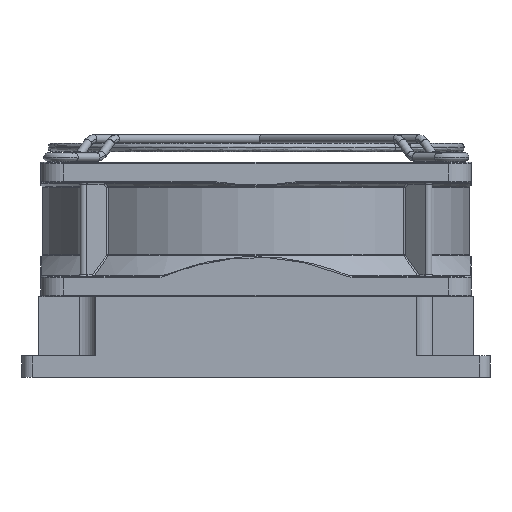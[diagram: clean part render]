
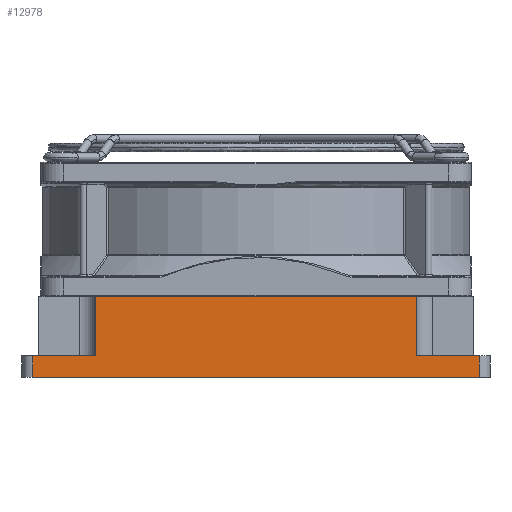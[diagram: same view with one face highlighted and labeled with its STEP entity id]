
A CAD part, front view. The second image highlights one B-rep face of the part: STEP entity #12978.
In plain terms, the highlighted planar face has unit normal (0, -1, 0).
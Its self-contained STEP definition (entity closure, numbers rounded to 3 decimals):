
#1658=FACE_OUTER_BOUND('',#2602,.T.);
#2602=EDGE_LOOP('',(#8775,#8776,#8777,#8778,#8779,#8780,#8781,#8782));
#3541=LINE('',#19007,#3938);
#3558=LINE('',#19056,#3955);
#3566=LINE('',#19084,#3963);
#3584=LINE('',#19154,#3981);
#3588=LINE('',#19162,#3985);
#3589=LINE('',#19164,#3986);
#3590=LINE('',#19166,#3987);
#3591=LINE('',#19167,#3988);
#3938=VECTOR('',#15506,10.);
#3955=VECTOR('',#15539,10.);
#3963=VECTOR('',#15563,10.);
#3981=VECTOR('',#15637,10.);
#3985=VECTOR('',#15649,10.);
#3986=VECTOR('',#15652,10.);
#3987=VECTOR('',#15655,10.);
#3988=VECTOR('',#15656,10.);
#5342=VERTEX_POINT('',#19004);
#5343=VERTEX_POINT('',#19006);
#5366=VERTEX_POINT('',#19053);
#5367=VERTEX_POINT('',#19055);
#5378=VERTEX_POINT('',#19081);
#5379=VERTEX_POINT('',#19083);
#5402=VERTEX_POINT('',#19151);
#5403=VERTEX_POINT('',#19153);
#6549=EDGE_CURVE('',#5343,#5342,#3541,.T.);
#6573=EDGE_CURVE('',#5367,#5366,#3558,.T.);
#6587=EDGE_CURVE('',#5379,#5378,#3566,.T.);
#6622=EDGE_CURVE('',#5403,#5402,#3584,.T.);
#6627=EDGE_CURVE('',#5379,#5402,#3588,.T.);
#6628=EDGE_CURVE('',#5403,#5366,#3589,.T.);
#6629=EDGE_CURVE('',#5342,#5367,#3590,.T.);
#6630=EDGE_CURVE('',#5378,#5343,#3591,.T.);
#8775=ORIENTED_EDGE('',*,*,#6629,.T.);
#8776=ORIENTED_EDGE('',*,*,#6573,.T.);
#8777=ORIENTED_EDGE('',*,*,#6628,.F.);
#8778=ORIENTED_EDGE('',*,*,#6622,.T.);
#8779=ORIENTED_EDGE('',*,*,#6627,.F.);
#8780=ORIENTED_EDGE('',*,*,#6587,.T.);
#8781=ORIENTED_EDGE('',*,*,#6630,.T.);
#8782=ORIENTED_EDGE('',*,*,#6549,.T.);
#12865=PLANE('',#13998);
#12978=ADVANCED_FACE('',(#1658),#12865,.F.);
#13998=AXIS2_PLACEMENT_3D('',#19165,#15653,#15654);
#15506=DIRECTION('',(-1.,0.,0.));
#15539=DIRECTION('',(-1.,0.,0.));
#15563=DIRECTION('',(-1.,0.,0.));
#15637=DIRECTION('',(1.,0.,0.));
#15649=DIRECTION('',(0.,0.,-1.));
#15652=DIRECTION('',(0.,0.,1.));
#15653=DIRECTION('center_axis',(0.,1.,0.));
#15654=DIRECTION('ref_axis',(1.,0.,0.));
#15655=DIRECTION('',(0.,0.,-1.));
#15656=DIRECTION('',(0.,0.,1.));
#19004=CARTESIAN_POINT('',(41.195,-354.995,30.));
#19006=CARTESIAN_POINT('',(100.795,-354.995,30.));
#19007=CARTESIAN_POINT('',(114.495,-354.995,30.));
#19053=CARTESIAN_POINT('',(29.495,-354.995,19.));
#19055=CARTESIAN_POINT('',(41.195,-354.995,19.));
#19056=CARTESIAN_POINT('',(70.995,-354.995,19.));
#19081=CARTESIAN_POINT('',(100.795,-354.995,19.));
#19083=CARTESIAN_POINT('',(112.495,-354.995,19.));
#19084=CARTESIAN_POINT('',(70.995,-354.995,19.));
#19151=CARTESIAN_POINT('',(112.495,-354.995,15.));
#19153=CARTESIAN_POINT('',(29.495,-354.995,15.));
#19154=CARTESIAN_POINT('',(27.495,-354.995,15.));
#19162=CARTESIAN_POINT('',(112.495,-354.995,18.75));
#19164=CARTESIAN_POINT('',(29.495,-354.995,20.75));
#19165=CARTESIAN_POINT('Origin',(70.995,-354.995,24.5));
#19166=CARTESIAN_POINT('',(41.195,-354.995,21.75));
#19167=CARTESIAN_POINT('',(100.795,-354.995,21.75));
